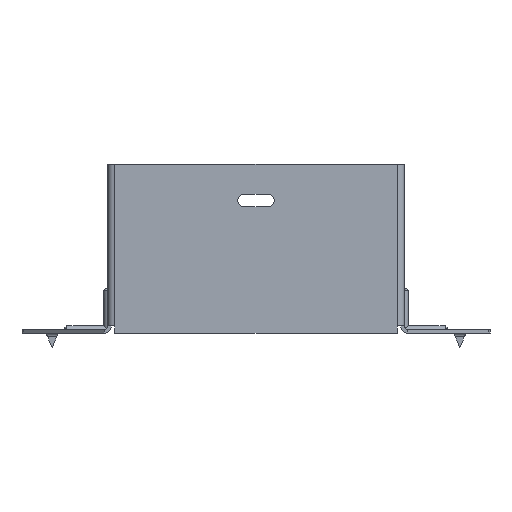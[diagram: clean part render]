
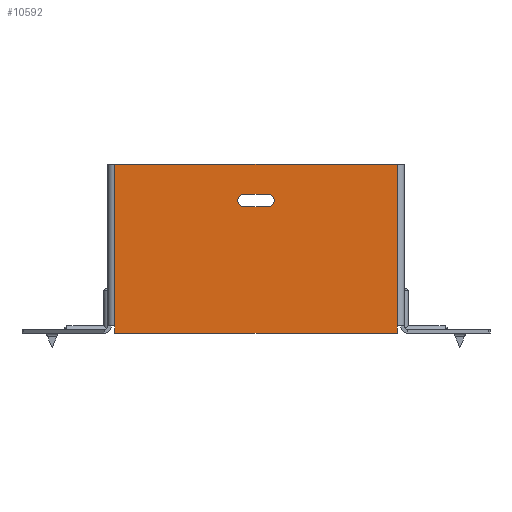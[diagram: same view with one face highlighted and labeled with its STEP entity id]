
A CAD part, front view. The second image highlights one B-rep face of the part: STEP entity #10592.
In plain terms, the highlighted planar face has unit normal (0, -1, 0).
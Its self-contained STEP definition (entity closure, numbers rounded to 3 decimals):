
#40 = CARTESIAN_POINT ( 'NONE',  ( -58.5, 0., 0. ) ) ;
#288 = EDGE_CURVE ( 'NONE', #11198, #12015, #15375, .T. ) ;
#866 = VECTOR ( 'NONE', #8975, 1000. ) ;
#1017 = DIRECTION ( 'NONE',  ( 0., 0., -1. ) ) ;
#1142 = CARTESIAN_POINT ( 'NONE',  ( -60., 0., -70. ) ) ;
#1592 = VECTOR ( 'NONE', #10087, 1000. ) ;
#1632 = ORIENTED_EDGE ( 'NONE', *, *, #4853, .T. ) ;
#1663 = EDGE_CURVE ( 'NONE', #8004, #8354, #3287, .T. ) ;
#3286 = EDGE_CURVE ( 'NONE', #8004, #18543, #4567, .T. ) ;
#3287 = LINE ( 'NONE', #11264, #4403 ) ;
#3363 = CARTESIAN_POINT ( 'NONE',  ( -5., 0., -12.5 ) ) ;
#3558 = CARTESIAN_POINT ( 'NONE',  ( -58.5, 0., -70. ) ) ;
#3679 = CARTESIAN_POINT ( 'NONE',  ( 0., 0., 0. ) ) ;
#4403 = VECTOR ( 'NONE', #15630, 1000. ) ;
#4567 = LINE ( 'NONE', #1142, #13583 ) ;
#4853 = EDGE_CURVE ( 'NONE', #12015, #12050, #6332, .T. ) ;
#5025 = ORIENTED_EDGE ( 'NONE', *, *, #288, .T. ) ;
#5735 = CARTESIAN_POINT ( 'NONE',  ( 58.5, 0., -70. ) ) ;
#5845 = EDGE_LOOP ( 'NONE', ( #1632, #16443, #6953, #5025 ) ) ;
#6046 = DIRECTION ( 'NONE',  ( 0., 1., 0. ) ) ;
#6212 = CARTESIAN_POINT ( 'NONE',  ( 5., 0., -15. ) ) ;
#6332 = LINE ( 'NONE', #11314, #15131 ) ;
#6385 = CIRCLE ( 'NONE', #10486, 2.5 ) ;
#6602 = CARTESIAN_POINT ( 'NONE',  ( -58.5, 0., 0. ) ) ;
#6647 = EDGE_CURVE ( 'NONE', #8354, #17237, #7183, .T. ) ;
#6695 = ORIENTED_EDGE ( 'NONE', *, *, #3286, .F. ) ;
#6756 = LINE ( 'NONE', #40, #1592 ) ;
#6953 = ORIENTED_EDGE ( 'NONE', *, *, #15125, .T. ) ;
#7183 = LINE ( 'NONE', #5735, #15757 ) ;
#7260 = ORIENTED_EDGE ( 'NONE', *, *, #12222, .T. ) ;
#7668 = CARTESIAN_POINT ( 'NONE',  ( -60., 0., 0. ) ) ;
#8004 = VERTEX_POINT ( 'NONE', #8016 ) ;
#8016 = CARTESIAN_POINT ( 'NONE',  ( 58.5, 0., -70. ) ) ;
#8178 = DIRECTION ( 'NONE',  ( -1., 0., 0. ) ) ;
#8285 = CARTESIAN_POINT ( 'NONE',  ( 58.5, 0., 0. ) ) ;
#8354 = VERTEX_POINT ( 'NONE', #18002 ) ;
#8429 = EDGE_CURVE ( 'NONE', #12609, #11922, #8483, .T. ) ;
#8483 = LINE ( 'NONE', #6602, #9387 ) ;
#8644 = LINE ( 'NONE', #7668, #12035 ) ;
#8975 = DIRECTION ( 'NONE',  ( 1., 0., 0. ) ) ;
#9387 = VECTOR ( 'NONE', #1017, 1000. ) ;
#10018 = AXIS2_PLACEMENT_3D ( 'NONE', #3679, #13772, #15237 ) ;
#10043 = ORIENTED_EDGE ( 'NONE', *, *, #17015, .F. ) ;
#10087 = DIRECTION ( 'NONE',  ( 0., 0., -1. ) ) ;
#10275 = EDGE_CURVE ( 'NONE', #12050, #12185, #6385, .T. ) ;
#10486 = AXIS2_PLACEMENT_3D ( 'NONE', #14863, #6046, #11773 ) ;
#10542 = DIRECTION ( 'NONE',  ( 0., 0., 1. ) ) ;
#10592 = ADVANCED_FACE ( 'NONE', ( #15606, #12680 ), #13962, .F. ) ;
#11198 = VERTEX_POINT ( 'NONE', #16905 ) ;
#11264 = CARTESIAN_POINT ( 'NONE',  ( 58.5, 0., -70. ) ) ;
#11314 = CARTESIAN_POINT ( 'NONE',  ( -5., 0., -17.5 ) ) ;
#11676 = CARTESIAN_POINT ( 'NONE',  ( -58.5, 0., -67. ) ) ;
#11692 = ORIENTED_EDGE ( 'NONE', *, *, #1663, .T. ) ;
#11773 = DIRECTION ( 'NONE',  ( 0., 0., 1. ) ) ;
#11922 = VERTEX_POINT ( 'NONE', #11676 ) ;
#11937 = DIRECTION ( 'NONE',  ( 0., 1., 0. ) ) ;
#12015 = VERTEX_POINT ( 'NONE', #15280 ) ;
#12017 = DIRECTION ( 'NONE',  ( 1., 0., 0. ) ) ;
#12035 = VECTOR ( 'NONE', #12017, 1000. ) ;
#12050 = VERTEX_POINT ( 'NONE', #15331 ) ;
#12185 = VERTEX_POINT ( 'NONE', #17403 ) ;
#12222 = EDGE_CURVE ( 'NONE', #11922, #18543, #6756, .T. ) ;
#12609 = VERTEX_POINT ( 'NONE', #14291 ) ;
#12680 = FACE_OUTER_BOUND ( 'NONE', #14779, .T. ) ;
#12797 = DIRECTION ( 'NONE',  ( 0., 0., 1. ) ) ;
#13551 = ORIENTED_EDGE ( 'NONE', *, *, #8429, .T. ) ;
#13583 = VECTOR ( 'NONE', #8178, 1000. ) ;
#13772 = DIRECTION ( 'NONE',  ( 0., 1., 0. ) ) ;
#13962 = PLANE ( 'NONE',  #10018 ) ;
#14291 = CARTESIAN_POINT ( 'NONE',  ( -58.5, 0., 0. ) ) ;
#14779 = EDGE_LOOP ( 'NONE', ( #13551, #7260, #6695, #11692, #15026, #10043 ) ) ;
#14863 = CARTESIAN_POINT ( 'NONE',  ( -5., 0., -15. ) ) ;
#15026 = ORIENTED_EDGE ( 'NONE', *, *, #6647, .T. ) ;
#15125 = EDGE_CURVE ( 'NONE', #12185, #11198, #15717, .T. ) ;
#15131 = VECTOR ( 'NONE', #16942, 1000. ) ;
#15237 = DIRECTION ( 'NONE',  ( 0., 0., 1. ) ) ;
#15280 = CARTESIAN_POINT ( 'NONE',  ( 5., 0., -17.5 ) ) ;
#15331 = CARTESIAN_POINT ( 'NONE',  ( -5., 0., -17.5 ) ) ;
#15375 = CIRCLE ( 'NONE', #18383, 2.5 ) ;
#15606 = FACE_BOUND ( 'NONE', #5845, .T. ) ;
#15630 = DIRECTION ( 'NONE',  ( 0., 0., 1. ) ) ;
#15717 = LINE ( 'NONE', #3363, #866 ) ;
#15757 = VECTOR ( 'NONE', #12797, 1000. ) ;
#16443 = ORIENTED_EDGE ( 'NONE', *, *, #10275, .T. ) ;
#16905 = CARTESIAN_POINT ( 'NONE',  ( 5., 0., -12.5 ) ) ;
#16942 = DIRECTION ( 'NONE',  ( -1., 0., 0. ) ) ;
#17015 = EDGE_CURVE ( 'NONE', #12609, #17237, #8644, .T. ) ;
#17237 = VERTEX_POINT ( 'NONE', #8285 ) ;
#17403 = CARTESIAN_POINT ( 'NONE',  ( -5., 0., -12.5 ) ) ;
#18002 = CARTESIAN_POINT ( 'NONE',  ( 58.5, 0., -67. ) ) ;
#18383 = AXIS2_PLACEMENT_3D ( 'NONE', #6212, #11937, #10542 ) ;
#18543 = VERTEX_POINT ( 'NONE', #3558 ) ;
